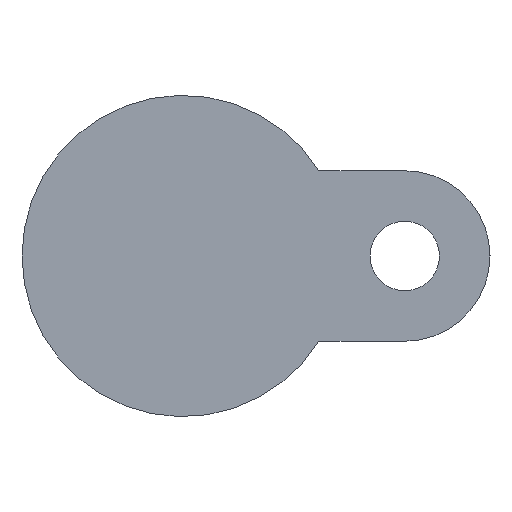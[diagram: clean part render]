
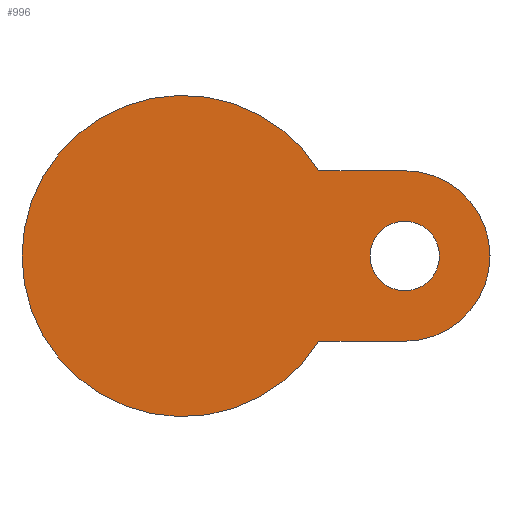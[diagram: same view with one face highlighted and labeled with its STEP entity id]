
A CAD part, front view. The second image highlights one B-rep face of the part: STEP entity #996.
In plain terms, the highlighted planar face has unit normal (0, -1, 0).
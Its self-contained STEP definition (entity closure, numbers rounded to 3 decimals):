
#9 = EDGE_CURVE ( 'NONE', #1382, #390, #773, .T. ) ;
#10 = ORIENTED_EDGE ( 'NONE', *, *, #143, .F. ) ;
#43 = AXIS2_PLACEMENT_3D ( 'NONE', #411, #1312, #187 ) ;
#64 = VECTOR ( 'NONE', #1010, 1000. ) ;
#77 = ORIENTED_EDGE ( 'NONE', *, *, #1318, .T. ) ;
#104 = FACE_OUTER_BOUND ( 'NONE', #1184, .T. ) ;
#110 = CARTESIAN_POINT ( 'NONE',  ( 34.322, -23., -21.5 ) ) ;
#143 = EDGE_CURVE ( 'NONE', #1350, #901, #554, .T. ) ;
#172 = CARTESIAN_POINT ( 'NONE',  ( 56., -23., 0. ) ) ;
#187 = DIRECTION ( 'NONE',  ( 1., 0., 0. ) ) ;
#204 = DIRECTION ( 'NONE',  ( -1., 0., 0. ) ) ;
#218 = CARTESIAN_POINT ( 'NONE',  ( 30.5, -23., 21.5 ) ) ;
#221 = DIRECTION ( 'NONE',  ( 0., 1., 0. ) ) ;
#249 = EDGE_CURVE ( 'NONE', #1096, #376, #730, .T. ) ;
#251 = EDGE_CURVE ( 'NONE', #901, #376, #1227, .T. ) ;
#256 = EDGE_CURVE ( 'NONE', #1096, #1350, #336, .T. ) ;
#260 = CIRCLE ( 'NONE', #583, 8.75 ) ;
#261 = VECTOR ( 'NONE', #1346, 1000. ) ;
#336 = LINE ( 'NONE', #218, #261 ) ;
#376 = VERTEX_POINT ( 'NONE', #110 ) ;
#390 = VERTEX_POINT ( 'NONE', #468 ) ;
#405 = AXIS2_PLACEMENT_3D ( 'NONE', #1328, #1478, #1135 ) ;
#411 = CARTESIAN_POINT ( 'NONE',  ( 56., -23., 0. ) ) ;
#430 = DIRECTION ( 'NONE',  ( 0., -1., 0. ) ) ;
#445 = FACE_BOUND ( 'NONE', #1405, .T. ) ;
#462 = ORIENTED_EDGE ( 'NONE', *, *, #9, .T. ) ;
#468 = CARTESIAN_POINT ( 'NONE',  ( 47.25, -23., 0. ) ) ;
#497 = ORIENTED_EDGE ( 'NONE', *, *, #249, .T. ) ;
#554 = CIRCLE ( 'NONE', #43, 21.5 ) ;
#583 = AXIS2_PLACEMENT_3D ( 'NONE', #172, #221, #204 ) ;
#666 = CARTESIAN_POINT ( 'NONE',  ( 40.5, -23., 0. ) ) ;
#677 = AXIS2_PLACEMENT_3D ( 'NONE', #1470, #1376, #682 ) ;
#682 = DIRECTION ( 'NONE',  ( -1., 0., 0. ) ) ;
#687 = DIRECTION ( 'NONE',  ( 1., 0., 0. ) ) ;
#730 = CIRCLE ( 'NONE', #405, 40.5 ) ;
#745 = ORIENTED_EDGE ( 'NONE', *, *, #251, .F. ) ;
#773 = CIRCLE ( 'NONE', #677, 8.75 ) ;
#866 = CARTESIAN_POINT ( 'NONE',  ( 64.75, -23., 0. ) ) ;
#875 = CARTESIAN_POINT ( 'NONE',  ( 56., -23., -21.5 ) ) ;
#901 = VERTEX_POINT ( 'NONE', #875 ) ;
#914 = PLANE ( 'NONE',  #1030 ) ;
#944 = CARTESIAN_POINT ( 'NONE',  ( 34.322, -23., 21.5 ) ) ;
#995 = ORIENTED_EDGE ( 'NONE', *, *, #256, .F. ) ;
#996 = ADVANCED_FACE ( 'NONE', ( #445, #104 ), #914, .T. ) ;
#1010 = DIRECTION ( 'NONE',  ( -1., 0., 0. ) ) ;
#1030 = AXIS2_PLACEMENT_3D ( 'NONE', #666, #430, #687 ) ;
#1096 = VERTEX_POINT ( 'NONE', #944 ) ;
#1126 = CARTESIAN_POINT ( 'NONE',  ( 30.5, -23., -21.5 ) ) ;
#1135 = DIRECTION ( 'NONE',  ( 1., 0., 0. ) ) ;
#1184 = EDGE_LOOP ( 'NONE', ( #497, #745, #10, #995 ) ) ;
#1227 = LINE ( 'NONE', #1126, #64 ) ;
#1243 = CARTESIAN_POINT ( 'NONE',  ( 56., -23., 21.5 ) ) ;
#1312 = DIRECTION ( 'NONE',  ( 0., 1., 0. ) ) ;
#1318 = EDGE_CURVE ( 'NONE', #390, #1382, #260, .T. ) ;
#1328 = CARTESIAN_POINT ( 'NONE',  ( 0., -23., 0. ) ) ;
#1346 = DIRECTION ( 'NONE',  ( 1., 0., 0. ) ) ;
#1350 = VERTEX_POINT ( 'NONE', #1243 ) ;
#1376 = DIRECTION ( 'NONE',  ( 0., 1., 0. ) ) ;
#1382 = VERTEX_POINT ( 'NONE', #866 ) ;
#1405 = EDGE_LOOP ( 'NONE', ( #77, #462 ) ) ;
#1470 = CARTESIAN_POINT ( 'NONE',  ( 56., -23., 0. ) ) ;
#1478 = DIRECTION ( 'NONE',  ( 0., -1., 0. ) ) ;
